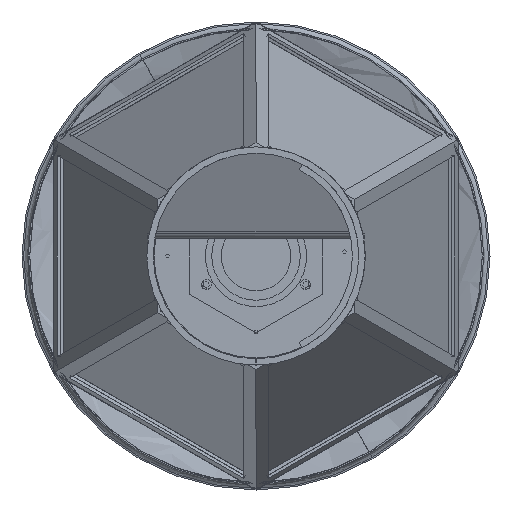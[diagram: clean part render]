
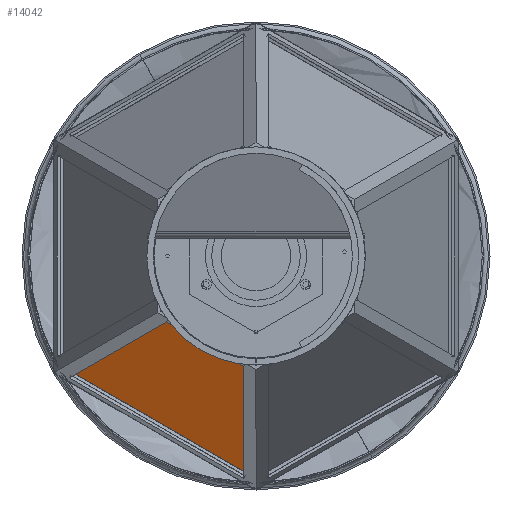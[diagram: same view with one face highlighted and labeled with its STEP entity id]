
A CAD part, front view. The second image highlights one B-rep face of the part: STEP entity #14042.
In plain terms, the highlighted planar face has unit normal (-0.483, -0.257, -0.837).
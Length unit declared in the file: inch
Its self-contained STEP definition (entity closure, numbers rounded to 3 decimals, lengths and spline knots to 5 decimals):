
#1166 = LINE ( 'NONE', #10167, #7464 ) ;
#1195 = EDGE_CURVE ( 'NONE', #24186, #30643, #5174, .T. ) ;
#1799 = DIRECTION ( 'NONE',  ( 0.866, 0., -0.5 ) ) ;
#1836 = VERTEX_POINT ( 'NONE', #9429 ) ;
#2746 = VERTEX_POINT ( 'NONE', #18156 ) ;
#2793 = CARTESIAN_POINT ( 'NONE',  ( 0.01062, 112.687, -4.2587 ) ) ;
#3311 = ORIENTED_EDGE ( 'NONE', *, *, #1195, .F. ) ;
#4576 = EDGE_CURVE ( 'NONE', #1836, #24186, #1166, .T. ) ;
#5174 = LINE ( 'NONE', #24767, #37017 ) ;
#5779 = LINE ( 'NONE', #11980, #28970 ) ;
#7464 = VECTOR ( 'NONE', #31860, 39.37008 ) ;
#7943 = ORIENTED_EDGE ( 'NONE', *, *, #39586, .F. ) ;
#9429 = CARTESIAN_POINT ( 'NONE',  ( -7.72995, 127.93623, -4.47576 ) ) ;
#10167 = CARTESIAN_POINT ( 'NONE',  ( -7.72995, 127.93623, -4.47576 ) ) ;
#10568 = EDGE_LOOP ( 'NONE', ( #3311, #39883, #17574, #7943 ) ) ;
#10702 = DIRECTION ( 'NONE',  ( 0., 0.956, -0.294 ) ) ;
#10875 = PLANE ( 'NONE',  #17807 ) ;
#11980 = CARTESIAN_POINT ( 'NONE',  ( -3.85881, 127.93623, -6.71076 ) ) ;
#14042 = ADVANCED_FACE ( 'NONE', ( #37946 ), #10875, .F. ) ;
#15163 = DIRECTION ( 'NONE',  ( 0.866, 0., -0.5 ) ) ;
#17528 = CARTESIAN_POINT ( 'NONE',  ( -3.66999, 112.687, -2.1337 ) ) ;
#17574 = ORIENTED_EDGE ( 'NONE', *, *, #32074, .F. ) ;
#17807 = AXIS2_PLACEMENT_3D ( 'NONE', #32813, #36068, #1799 ) ;
#18156 = CARTESIAN_POINT ( 'NONE',  ( 0.01232, 127.93623, -8.94576 ) ) ;
#24186 = VERTEX_POINT ( 'NONE', #17528 ) ;
#24767 = CARTESIAN_POINT ( 'NONE',  ( -1.82968, 112.687, -3.1962 ) ) ;
#26402 = CARTESIAN_POINT ( 'NONE',  ( 0.01062, 112.687, -4.2587 ) ) ;
#28119 = LINE ( 'NONE', #26402, #32398 ) ;
#28970 = VECTOR ( 'NONE', #30703, 39.37008 ) ;
#30643 = VERTEX_POINT ( 'NONE', #2793 ) ;
#30703 = DIRECTION ( 'NONE',  ( -0.866, 0., 0.5 ) ) ;
#31860 = DIRECTION ( 'NONE',  ( 0.254, -0.956, 0.147 ) ) ;
#32074 = EDGE_CURVE ( 'NONE', #2746, #1836, #5779, .T. ) ;
#32398 = VECTOR ( 'NONE', #10702, 39.37008 ) ;
#32813 = CARTESIAN_POINT ( 'NONE',  ( -1.82968, 112.687, -3.1962 ) ) ;
#36068 = DIRECTION ( 'NONE',  ( 0.483, 0.257, 0.837 ) ) ;
#37017 = VECTOR ( 'NONE', #15163, 39.37008 ) ;
#37946 = FACE_OUTER_BOUND ( 'NONE', #10568, .T. ) ;
#39586 = EDGE_CURVE ( 'NONE', #30643, #2746, #28119, .T. ) ;
#39883 = ORIENTED_EDGE ( 'NONE', *, *, #4576, .F. ) ;
